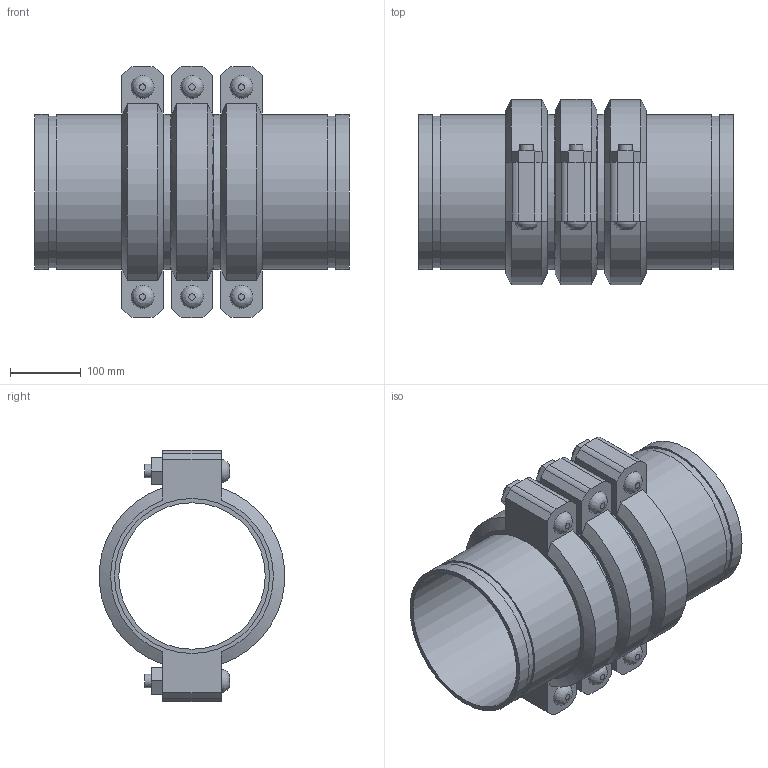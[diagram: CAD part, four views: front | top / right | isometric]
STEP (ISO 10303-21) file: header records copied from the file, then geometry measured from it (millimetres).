
FILE_DESCRIPTION(/* description */ ('VIC SS EXPANSION JOINT 3 COUPLINGS COMPRESSED STYLE 155P (OGS) (POTABLE WATER) ','CAx-IF Rec.Pracs.---Representation and Presentation of Product Manufacturing Information (PMI)---4.0---2014-10-13'),/* implementation_level */ '2;1');
FILE_NAME(/* name */ 'C:\Users\kkamble\AppData\Roaming\Autodesk\ApplicationPlugins\Victaulic.Temp\A254\Victaulic_SS_Expansion Joint_Compressed_3 Couplings_Style 155P (OGS)-Potable Water_3 Coup_Comp_8 (200).stp',/* time_stamp */ '2021-07-16T17:11:00+06:00',/* author */ ('kkamble'),/* organization */ ('Victaulic'),/* preprocessor_version */ 'ST-DEVELOPER v17.2',/* originating_system */ 'Autodesk Inventor 2019',/* authorisation */ '');
FILE_SCHEMA (('AP242_MANAGED_MODEL_BASED_3D_ENGINEERING_MIM_LF { 1 0 10303 442 1 1 4 }'));
Length unit declared in the file: inch
Products named in the file (4): 155P-08.0; Nipple-08.0; Nipple-08.0_1; 075-08.0
Assembly tree (7 placements, depth 2):
  155P-08.0
    Nipple-08.0  x2
    Nipple-08.0_1  x2
    075-08.0  x3
Bounding box: 444.5 x 261.72 x 354.84 mm (x, y, z)
Volume: 5802024.2 mm3; surface area: 1152909 mm2
Topology: 7 solids, 13 shells, 207 faces, 501 edges, 354 vertices
Faces by surface type: plane 126, cylinder 63, cone 12, bspline 6
Full cylindrical faces by diameter (mm): 19.05 x12, 21.209 x6, 206.985 x4, 214.401 x8, 219.075 x15
Entity records: 2657 total; most frequent: CARTESIAN_POINT 477, DIRECTION 439, ORIENTED_EDGE 374, EDGE_CURVE 187, AXIS2_PLACEMENT_3D 174, VERTEX_POINT 134, EDGE_LOOP 101, LINE 91
